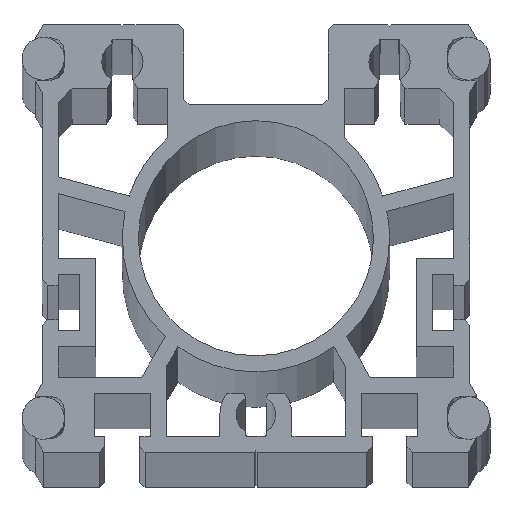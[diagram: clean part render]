
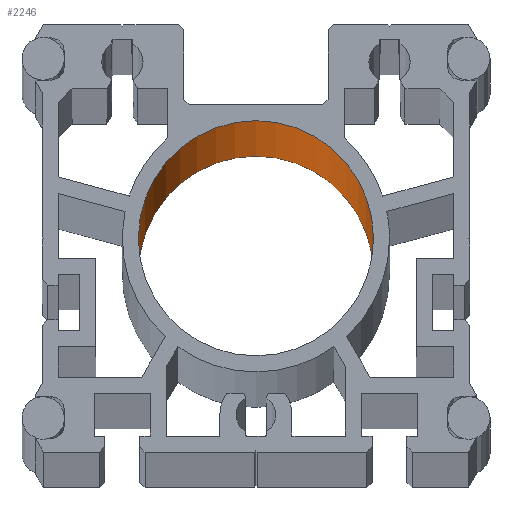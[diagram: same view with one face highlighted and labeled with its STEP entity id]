
A CAD part, top view. The second image highlights one B-rep face of the part: STEP entity #2246.
In plain terms, the highlighted cylindrical face has radius 22 mm (diameter 44 mm), a partial arc.
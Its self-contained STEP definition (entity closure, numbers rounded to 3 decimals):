
#1520 = EDGE_CURVE ( 'NONE', #7803, #7802, #5767, .T. ) ;
#2246 = ADVANCED_FACE ( 'NONE', ( #6652 ), #6651, .F. ) ;
#2247 = EDGE_LOOP ( 'NONE', ( #2248, #2256, #2257, #2258 ) ) ;
#2248 = ORIENTED_EDGE ( 'NONE', *, *, #7719, .F. ) ;
#2256 = ORIENTED_EDGE ( 'NONE', *, *, #1520, .F. ) ;
#2257 = ORIENTED_EDGE ( 'NONE', *, *, #7725, .T. ) ;
#2258 = ORIENTED_EDGE ( 'NONE', *, *, #2322, .T. ) ;
#2322 = EDGE_CURVE ( 'NONE', #7723, #7720, #6642, .T. ) ;
#5763 = DIRECTION ( 'NONE',  ( 1., 0., 0. ) ) ;
#5764 = DIRECTION ( 'NONE',  ( 0., 0., 1. ) ) ;
#5765 = CARTESIAN_POINT ( 'NONE',  ( 0., 40., -1899. ) ) ;
#5766 = AXIS2_PLACEMENT_3D ( 'NONE', #5765, #5764, #5763 ) ;
#5767 = CIRCLE ( 'NONE', #5766, 22. ) ;
#6638 = DIRECTION ( 'NONE',  ( 1., 0., 0. ) ) ;
#6639 = DIRECTION ( 'NONE',  ( 0., 0., 1. ) ) ;
#6640 = CARTESIAN_POINT ( 'NONE',  ( 0., 40., 1899. ) ) ;
#6641 = AXIS2_PLACEMENT_3D ( 'NONE', #6640, #6639, #6638 ) ;
#6642 = CIRCLE ( 'NONE', #6641, 22. ) ;
#6647 = DIRECTION ( 'NONE',  ( 1., 0., 0. ) ) ;
#6648 = DIRECTION ( 'NONE',  ( 0., 0., 1. ) ) ;
#6649 = CARTESIAN_POINT ( 'NONE',  ( 0., 40., -1899. ) ) ;
#6650 = AXIS2_PLACEMENT_3D ( 'NONE', #6649, #6648, #6647 ) ;
#6651 = CYLINDRICAL_SURFACE ( 'NONE', #6650, 22. ) ;
#6652 = FACE_OUTER_BOUND ( 'NONE', #2247, .T. ) ;
#7719 = EDGE_CURVE ( 'NONE', #7802, #7720, #8152, .T. ) ;
#7720 = VERTEX_POINT ( 'NONE', #8148 ) ;
#7723 = VERTEX_POINT ( 'NONE', #8142 ) ;
#7725 = EDGE_CURVE ( 'NONE', #7803, #7723, #8141, .T. ) ;
#7802 = VERTEX_POINT ( 'NONE', #8566 ) ;
#7803 = VERTEX_POINT ( 'NONE', #8565 ) ;
#8138 = DIRECTION ( 'NONE',  ( 0., 0., 1. ) ) ;
#8139 = VECTOR ( 'NONE', #8138, 1000. ) ;
#8140 = CARTESIAN_POINT ( 'NONE',  ( 22., 40., -1899. ) ) ;
#8141 = LINE ( 'NONE', #8140, #8139 ) ;
#8142 = CARTESIAN_POINT ( 'NONE',  ( 22., 40., 1899. ) ) ;
#8148 = CARTESIAN_POINT ( 'NONE',  ( -22., 40., 1899. ) ) ;
#8149 = DIRECTION ( 'NONE',  ( 0., 0., 1. ) ) ;
#8150 = VECTOR ( 'NONE', #8149, 1000. ) ;
#8151 = CARTESIAN_POINT ( 'NONE',  ( -22., 40., -1899. ) ) ;
#8152 = LINE ( 'NONE', #8151, #8150 ) ;
#8565 = CARTESIAN_POINT ( 'NONE',  ( 22., 40., -1899. ) ) ;
#8566 = CARTESIAN_POINT ( 'NONE',  ( -22., 40., -1899. ) ) ;
